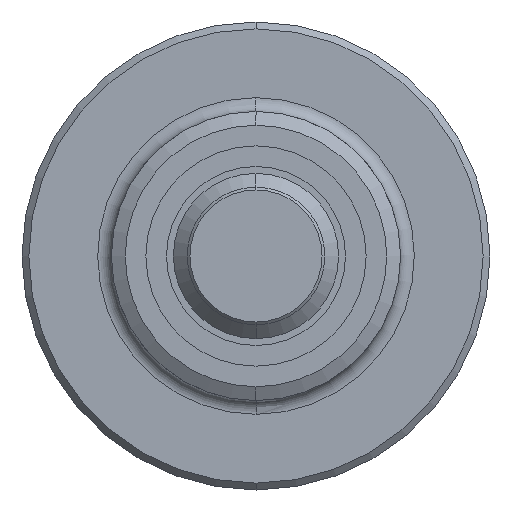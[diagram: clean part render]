
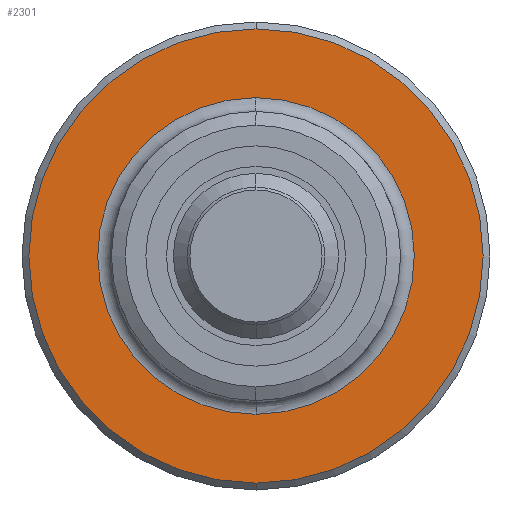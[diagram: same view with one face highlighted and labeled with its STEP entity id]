
A CAD part, left-side view. The second image highlights one B-rep face of the part: STEP entity #2301.
In plain terms, the highlighted planar face has unit normal (-1, 0, 0).
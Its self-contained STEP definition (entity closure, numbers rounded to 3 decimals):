
#324=CARTESIAN_POINT('',(-4.,0.,
0.));
#325=DIRECTION('',(1.,0.,0.));
#326=DIRECTION('',(0.,0.,1.));
#327=AXIS2_PLACEMENT_3D('',#324,#325,#326);
#329=CARTESIAN_POINT('',(-4.,0.,
0.));
#330=DIRECTION('',(1.,0.,0.));
#331=DIRECTION('',(0.,0.,-1.));
#332=AXIS2_PLACEMENT_3D('',#329,#330,#331);
#334=CARTESIAN_POINT('',(-4.,0.,0.));
#335=DIRECTION('',(-1.,0.,0.));
#336=DIRECTION('',(0.,0.,1.));
#337=AXIS2_PLACEMENT_3D('',#334,#335,#336);
#339=CARTESIAN_POINT('',(-4.,0.,0.));
#340=DIRECTION('',(-1.,0.,0.));
#341=DIRECTION('',(0.,0.01,1.));
#342=AXIS2_PLACEMENT_3D('',#339,#340,#341);
#344=CARTESIAN_POINT('',(-4.,0.,0.));
#345=DIRECTION('',(-1.,0.,0.));
#346=DIRECTION('',(0.,0.,-1.));
#347=AXIS2_PLACEMENT_3D('',#344,#345,#346);
#349=CARTESIAN_POINT('',(-4.,0.,0.));
#350=DIRECTION('',(-1.,0.,0.));
#351=DIRECTION('',(0.,-0.01,-1.));
#352=AXIS2_PLACEMENT_3D('',#349,#350,#351);
#1742=CARTESIAN_POINT('',(-4.,0.,
-16.5));
#1743=CARTESIAN_POINT('',(-4.,0.,
16.5));
#1744=VERTEX_POINT('',#1742);
#1745=VERTEX_POINT('',#1743);
#1746=CARTESIAN_POINT('',(-4.,0.116,11.499));
#1747=CARTESIAN_POINT('',(-4.,0.,-11.5));
#1748=VERTEX_POINT('',#1746);
#1749=VERTEX_POINT('',#1747);
#1750=CARTESIAN_POINT('',(-4.,0.,11.5));
#1751=VERTEX_POINT('',#1750);
#1752=CARTESIAN_POINT('',(-4.,-0.116,-11.499));
#1753=VERTEX_POINT('',#1752);
#2281=CARTESIAN_POINT('',(-4.,0.,0.));
#2282=DIRECTION('',(1.,0.,0.));
#2283=DIRECTION('',(0.,0.,1.));
#2284=AXIS2_PLACEMENT_3D('',#2281,#2282,#2283);
#2285=PLANE('',#2284);
#2287=ORIENTED_EDGE('',*,*,#2286,.T.);
#2288=ORIENTED_EDGE('',*,*,#2271,.T.);
#2289=EDGE_LOOP('',(#2287,#2288));
#2290=FACE_OUTER_BOUND('',#2289,.F.);
#2292=ORIENTED_EDGE('',*,*,#2291,.T.);
#2294=ORIENTED_EDGE('',*,*,#2293,.T.);
#2296=ORIENTED_EDGE('',*,*,#2295,.T.);
#2298=ORIENTED_EDGE('',*,*,#2297,.T.);
#2299=EDGE_LOOP('',(#2292,#2294,#2296,#2298));
#2300=FACE_BOUND('',#2299,.F.);
#2301=ADVANCED_FACE('',(#2290,#2300),#2285,.F.);
#328=CIRCLE('',#327,16.5);
#333=CIRCLE('',#332,16.5);
#338=CIRCLE('',#337,11.5);
#343=CIRCLE('',#342,11.5);
#348=CIRCLE('',#347,11.5);
#353=CIRCLE('',#352,11.5);
#2271=EDGE_CURVE('',#1744,#1745,#333,.T.);
#2286=EDGE_CURVE('',#1745,#1744,#328,.T.);
#2291=EDGE_CURVE('',#1751,#1748,#338,.T.);
#2293=EDGE_CURVE('',#1748,#1749,#343,.T.);
#2295=EDGE_CURVE('',#1749,#1753,#348,.T.);
#2297=EDGE_CURVE('',#1753,#1751,#353,.T.);
